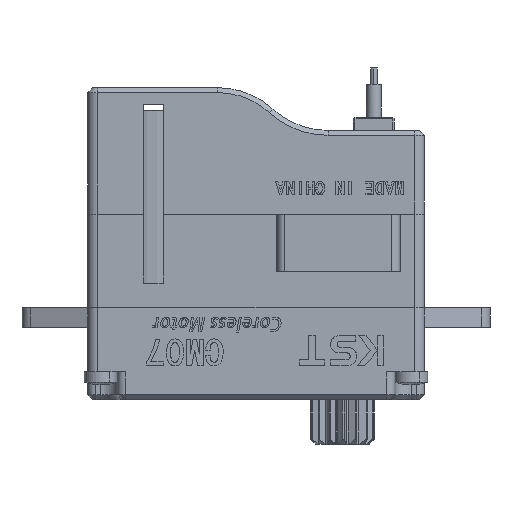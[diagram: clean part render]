
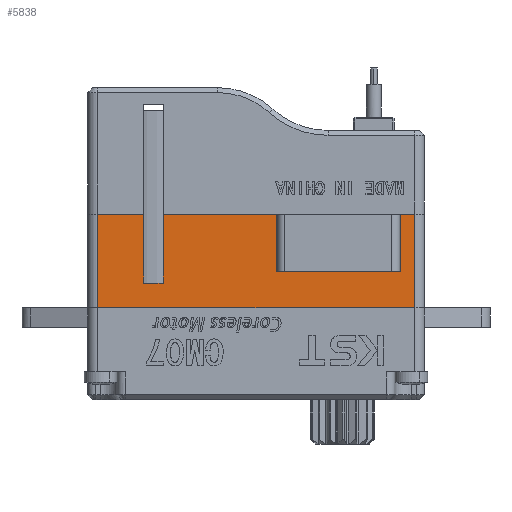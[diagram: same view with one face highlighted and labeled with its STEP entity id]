
A CAD part, front view. The second image highlights one B-rep face of the part: STEP entity #5838.
In plain terms, the highlighted planar face has unit normal (0, -1, 0).
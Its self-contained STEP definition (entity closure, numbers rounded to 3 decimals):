
#1519 = CARTESIAN_POINT ( 'NONE',  ( -113.63, -15.276, -0.7 ) ) ;
#1890 = CARTESIAN_POINT ( 'NONE',  ( -106.699, -15.276, 3.5 ) ) ;
#2349 = LINE ( 'NONE', #52379, #33224 ) ;
#3518 = CARTESIAN_POINT ( 'NONE',  ( -106.699, -15.276, 0. ) ) ;
#3629 = CARTESIAN_POINT ( 'NONE',  ( -114.818, -15.276, 3.5 ) ) ;
#4272 = DIRECTION ( 'NONE',  ( -1., 0., 0. ) ) ;
#4713 = VECTOR ( 'NONE', #26573, 1000. ) ;
#5838 = ADVANCED_FACE ( 'NONE', ( #19657 ), #49785, .F. ) ;
#6262 = CARTESIAN_POINT ( 'NONE',  ( -98.324, -15.276, -2.2 ) ) ;
#6405 = EDGE_CURVE ( 'NONE', #51873, #52065, #41468, .T. ) ;
#7534 = LINE ( 'NONE', #61904, #27838 ) ;
#8375 = EDGE_CURVE ( 'NONE', #12310, #13218, #16444, .T. ) ;
#9761 = DIRECTION ( 'NONE',  ( 0., 0., -1. ) ) ;
#9815 = VECTOR ( 'NONE', #18239, 1000. ) ;
#10874 = LINE ( 'NONE', #16272, #46349 ) ;
#12187 = ORIENTED_EDGE ( 'NONE', *, *, #13725, .T. ) ;
#12263 = CARTESIAN_POINT ( 'NONE',  ( -113.63, -15.276, -0.7 ) ) ;
#12310 = VERTEX_POINT ( 'NONE', #58930 ) ;
#12492 = VECTOR ( 'NONE', #32357, 1000. ) ;
#12495 = VERTEX_POINT ( 'NONE', #27198 ) ;
#13138 = LINE ( 'NONE', #57239, #23664 ) ;
#13218 = VERTEX_POINT ( 'NONE', #6262 ) ;
#13287 = EDGE_LOOP ( 'NONE', ( #50327, #25877, #41156, #22308, #54463, #21115, #53099, #24547, #12187, #60068, #53972, #38017 ) ) ;
#13654 = VERTEX_POINT ( 'NONE', #59175 ) ;
#13725 = EDGE_CURVE ( 'NONE', #52065, #25794, #39406, .T. ) ;
#14000 = LINE ( 'NONE', #3518, #12492 ) ;
#14987 = DIRECTION ( 'NONE',  ( 0., 0., 1. ) ) ;
#15892 = EDGE_CURVE ( 'NONE', #17799, #29882, #10874, .T. ) ;
#16244 = EDGE_CURVE ( 'NONE', #25794, #45800, #39451, .T. ) ;
#16272 = CARTESIAN_POINT ( 'NONE',  ( -99.149, -15.276, 3.5 ) ) ;
#16444 = LINE ( 'NONE', #47627, #31567 ) ;
#16505 = CARTESIAN_POINT ( 'NONE',  ( -106.699, -15.276, 3.5 ) ) ;
#17799 = VERTEX_POINT ( 'NONE', #37439 ) ;
#18180 = EDGE_CURVE ( 'NONE', #12495, #17799, #7534, .T. ) ;
#18239 = DIRECTION ( 'NONE',  ( -1., 0., 0. ) ) ;
#19657 = FACE_OUTER_BOUND ( 'NONE', #13287, .T. ) ;
#20396 = DIRECTION ( 'NONE',  ( 0., 0., 1. ) ) ;
#21115 = ORIENTED_EDGE ( 'NONE', *, *, #31931, .T. ) ;
#22308 = ORIENTED_EDGE ( 'NONE', *, *, #15892, .T. ) ;
#22478 = VERTEX_POINT ( 'NONE', #40750 ) ;
#23664 = VECTOR ( 'NONE', #14987, 1000. ) ;
#24547 = ORIENTED_EDGE ( 'NONE', *, *, #6405, .T. ) ;
#24754 = EDGE_CURVE ( 'NONE', #13218, #12495, #13138, .T. ) ;
#25258 = LINE ( 'NONE', #1890, #32095 ) ;
#25794 = VERTEX_POINT ( 'NONE', #59188 ) ;
#25877 = ORIENTED_EDGE ( 'NONE', *, *, #24754, .T. ) ;
#25969 = DIRECTION ( 'NONE',  ( 0., 0., -1. ) ) ;
#26112 = DIRECTION ( 'NONE',  ( 0., 0., 1. ) ) ;
#26573 = DIRECTION ( 'NONE',  ( -1., 0., 0. ) ) ;
#27198 = CARTESIAN_POINT ( 'NONE',  ( -98.324, -15.276, 3.5 ) ) ;
#27838 = VECTOR ( 'NONE', #47499, 1000. ) ;
#27977 = CARTESIAN_POINT ( 'NONE',  ( -99.149, -15.276, 0. ) ) ;
#29882 = VERTEX_POINT ( 'NONE', #48588 ) ;
#31567 = VECTOR ( 'NONE', #52079, 1000. ) ;
#31816 = VERTEX_POINT ( 'NONE', #16505 ) ;
#31931 = EDGE_CURVE ( 'NONE', #22478, #31816, #14000, .T. ) ;
#32095 = VECTOR ( 'NONE', #40385, 1000. ) ;
#32357 = DIRECTION ( 'NONE',  ( 0., 0., 1. ) ) ;
#32406 = VECTOR ( 'NONE', #51207, 1000. ) ;
#33224 = VECTOR ( 'NONE', #4272, 1000. ) ;
#37040 = CARTESIAN_POINT ( 'NONE',  ( -113.63, -15.276, 3.5 ) ) ;
#37439 = CARTESIAN_POINT ( 'NONE',  ( -99.149, -15.276, 3.5 ) ) ;
#37808 = EDGE_CURVE ( 'NONE', #45800, #13654, #2349, .T. ) ;
#38017 = ORIENTED_EDGE ( 'NONE', *, *, #41868, .T. ) ;
#39129 = LINE ( 'NONE', #43706, #41358 ) ;
#39406 = LINE ( 'NONE', #12263, #4713 ) ;
#39451 = LINE ( 'NONE', #59124, #50063 ) ;
#40259 = DIRECTION ( 'NONE',  ( 0., 1., 0. ) ) ;
#40385 = DIRECTION ( 'NONE',  ( -1., 0., 0. ) ) ;
#40750 = CARTESIAN_POINT ( 'NONE',  ( -106.699, -15.276, 0. ) ) ;
#41156 = ORIENTED_EDGE ( 'NONE', *, *, #18180, .T. ) ;
#41346 = AXIS2_PLACEMENT_3D ( 'NONE', #55090, #40259, #26112 ) ;
#41358 = VECTOR ( 'NONE', #9761, 1000. ) ;
#41468 = LINE ( 'NONE', #37040, #32406 ) ;
#41868 = EDGE_CURVE ( 'NONE', #13654, #12310, #39129, .T. ) ;
#43706 = CARTESIAN_POINT ( 'NONE',  ( -117.624, -15.276, -2.5 ) ) ;
#45800 = VERTEX_POINT ( 'NONE', #3629 ) ;
#46349 = VECTOR ( 'NONE', #25969, 1000. ) ;
#47499 = DIRECTION ( 'NONE',  ( -1., 0., 0. ) ) ;
#47627 = CARTESIAN_POINT ( 'NONE',  ( -117.424, -15.276, -2.2 ) ) ;
#48588 = CARTESIAN_POINT ( 'NONE',  ( -99.149, -15.276, 0. ) ) ;
#49785 = PLANE ( 'NONE',  #41346 ) ;
#50063 = VECTOR ( 'NONE', #20396, 1000. ) ;
#50327 = ORIENTED_EDGE ( 'NONE', *, *, #8375, .T. ) ;
#51207 = DIRECTION ( 'NONE',  ( 0., 0., -1. ) ) ;
#51873 = VERTEX_POINT ( 'NONE', #61038 ) ;
#52065 = VERTEX_POINT ( 'NONE', #1519 ) ;
#52079 = DIRECTION ( 'NONE',  ( 1., 0., 0. ) ) ;
#52263 = EDGE_CURVE ( 'NONE', #29882, #22478, #59691, .T. ) ;
#52379 = CARTESIAN_POINT ( 'NONE',  ( -114.818, -15.276, 3.5 ) ) ;
#53099 = ORIENTED_EDGE ( 'NONE', *, *, #54677, .T. ) ;
#53972 = ORIENTED_EDGE ( 'NONE', *, *, #37808, .T. ) ;
#54463 = ORIENTED_EDGE ( 'NONE', *, *, #52263, .T. ) ;
#54677 = EDGE_CURVE ( 'NONE', #31816, #51873, #25258, .T. ) ;
#55090 = CARTESIAN_POINT ( 'NONE',  ( -108.224, -15.276, -2.5 ) ) ;
#57239 = CARTESIAN_POINT ( 'NONE',  ( -98.324, -15.276, 3.5 ) ) ;
#58930 = CARTESIAN_POINT ( 'NONE',  ( -117.624, -15.276, -2.2 ) ) ;
#59124 = CARTESIAN_POINT ( 'NONE',  ( -114.818, -15.276, -0.7 ) ) ;
#59175 = CARTESIAN_POINT ( 'NONE',  ( -117.624, -15.276, 3.5 ) ) ;
#59188 = CARTESIAN_POINT ( 'NONE',  ( -114.818, -15.276, -0.7 ) ) ;
#59691 = LINE ( 'NONE', #27977, #9815 ) ;
#60068 = ORIENTED_EDGE ( 'NONE', *, *, #16244, .T. ) ;
#61038 = CARTESIAN_POINT ( 'NONE',  ( -113.63, -15.276, 3.5 ) ) ;
#61904 = CARTESIAN_POINT ( 'NONE',  ( -98.524, -15.276, 3.5 ) ) ;
